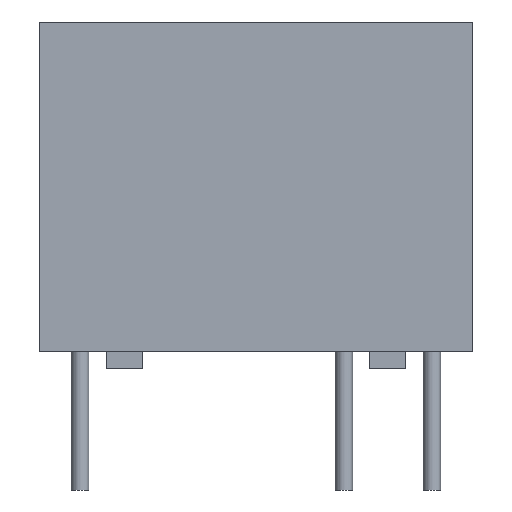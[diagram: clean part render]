
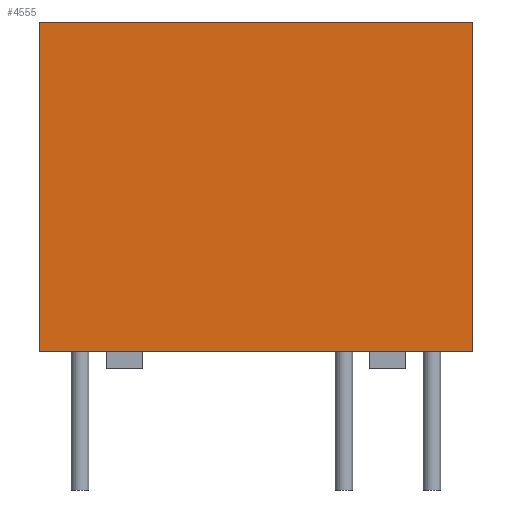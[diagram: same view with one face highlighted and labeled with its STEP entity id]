
A CAD part, front view. The second image highlights one B-rep face of the part: STEP entity #4555.
In plain terms, the highlighted planar face has unit normal (0, -1, 0).
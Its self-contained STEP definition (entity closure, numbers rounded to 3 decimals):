
#211 = ORIENTED_EDGE ( 'NONE', *, *, #2277, .T. ) ;
#274 = CARTESIAN_POINT ( 'NONE',  ( 6.25, -3.75, 0. ) ) ;
#297 = VERTEX_POINT ( 'NONE', #1877 ) ;
#637 = EDGE_CURVE ( 'NONE', #297, #2518, #1988, .T. ) ;
#778 = LINE ( 'NONE', #274, #1967 ) ;
#960 = DIRECTION ( 'NONE',  ( 1., 0., 0. ) ) ;
#1065 = VECTOR ( 'NONE', #3589, 1000. ) ;
#1172 = VECTOR ( 'NONE', #960, 1000. ) ;
#1177 = EDGE_LOOP ( 'NONE', ( #4837, #211, #3715, #3607 ) ) ;
#1474 = CARTESIAN_POINT ( 'NONE',  ( -6.25, -3.75, 9.5 ) ) ;
#1498 = PLANE ( 'NONE',  #2494 ) ;
#1557 = CARTESIAN_POINT ( 'NONE',  ( 6.25, -3.75, 0. ) ) ;
#1562 = DIRECTION ( 'NONE',  ( 1., 0., 0. ) ) ;
#1877 = CARTESIAN_POINT ( 'NONE',  ( -6.25, -3.75, 9.5 ) ) ;
#1890 = DIRECTION ( 'NONE',  ( 0., 0., -1. ) ) ;
#1967 = VECTOR ( 'NONE', #4701, 1000. ) ;
#1988 = LINE ( 'NONE', #1474, #1172 ) ;
#2005 = FACE_OUTER_BOUND ( 'NONE', #1177, .T. ) ;
#2069 = CARTESIAN_POINT ( 'NONE',  ( -6.25, -3.75, 0. ) ) ;
#2211 = CARTESIAN_POINT ( 'NONE',  ( -6.25, -3.75, 0. ) ) ;
#2277 = EDGE_CURVE ( 'NONE', #4408, #2808, #2564, .T. ) ;
#2384 = DIRECTION ( 'NONE',  ( 0., -1., 0. ) ) ;
#2473 = CARTESIAN_POINT ( 'NONE',  ( 6.25, -3.75, 9.5 ) ) ;
#2485 = VECTOR ( 'NONE', #1562, 1000. ) ;
#2494 = AXIS2_PLACEMENT_3D ( 'NONE', #2898, #2384, #1890 ) ;
#2518 = VERTEX_POINT ( 'NONE', #2473 ) ;
#2564 = LINE ( 'NONE', #2069, #2485 ) ;
#2808 = VERTEX_POINT ( 'NONE', #1557 ) ;
#2898 = CARTESIAN_POINT ( 'NONE',  ( 6.25, -3.75, 0. ) ) ;
#3589 = DIRECTION ( 'NONE',  ( 0., 0., 1. ) ) ;
#3607 = ORIENTED_EDGE ( 'NONE', *, *, #637, .F. ) ;
#3608 = EDGE_CURVE ( 'NONE', #2518, #2808, #778, .T. ) ;
#3715 = ORIENTED_EDGE ( 'NONE', *, *, #3608, .F. ) ;
#3831 = LINE ( 'NONE', #4092, #1065 ) ;
#4092 = CARTESIAN_POINT ( 'NONE',  ( -6.25, -3.75, 0. ) ) ;
#4309 = EDGE_CURVE ( 'NONE', #4408, #297, #3831, .T. ) ;
#4408 = VERTEX_POINT ( 'NONE', #2211 ) ;
#4555 = ADVANCED_FACE ( 'NONE', ( #2005 ), #1498, .T. ) ;
#4701 = DIRECTION ( 'NONE',  ( 0., 0., -1. ) ) ;
#4837 = ORIENTED_EDGE ( 'NONE', *, *, #4309, .F. ) ;
